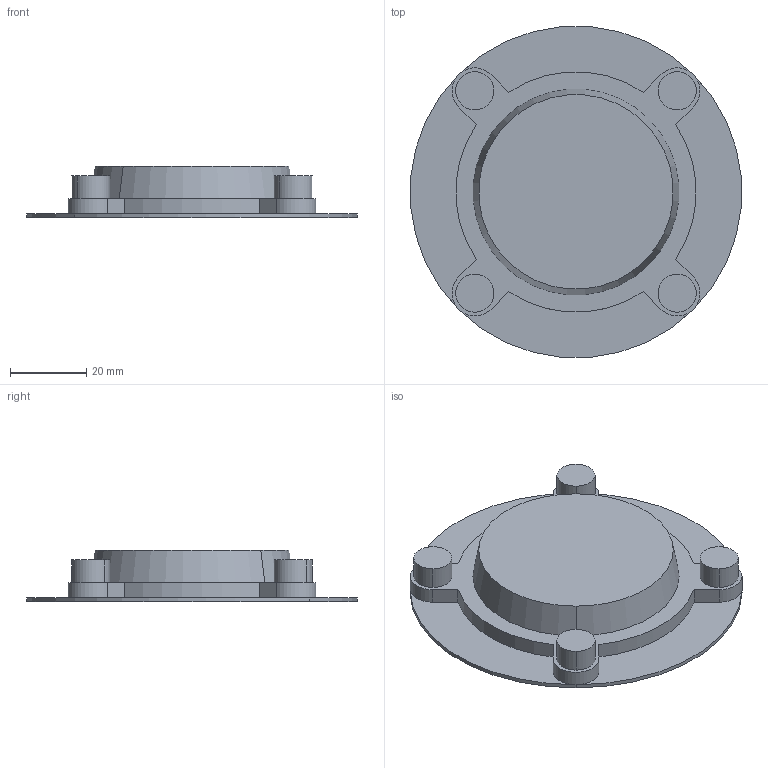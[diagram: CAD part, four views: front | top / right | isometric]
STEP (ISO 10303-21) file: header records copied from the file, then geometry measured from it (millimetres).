
FILE_DESCRIPTION(/* description */ (''),/* implementation_level */ '2;1');
FILE_NAME(/* name */ '7_COPRIMOZZO NMRV040',/* time_stamp */ '2025-10-09T14:25:36+02:00',/* author */ (''),/* organization */ (''),/* preprocessor_version */ 'ST-DEVELOPER v19.2',/* originating_system */ 'Rhino 8.23',/* authorisation */ '');
FILE_SCHEMA (('CONFIG_CONTROL_DESIGN'));
Length unit declared in the file: millimetre
Products named in the file (2): Document; Hollow shaft 40
Bounding box: 86.67 x 86.67 x 13.5 mm (x, y, z)
Volume: 40837.8 mm3; surface area: 15205.6 mm2
Topology: 1 solids, 1 shells, 39 faces, 90 edges, 58 vertices
Faces by surface type: plane 19, cylinder 18, bspline 2
Entity records: 1466 total; most frequent: CARTESIAN_POINT 345, ORIENTED_EDGE 180, DIRECTION 137, EDGE_CURVE 90, AXIS2_PLACEMENT_3D 87, VERTEX_POINT 58, TRIMMED_CURVE 46, CIRCLE 46
